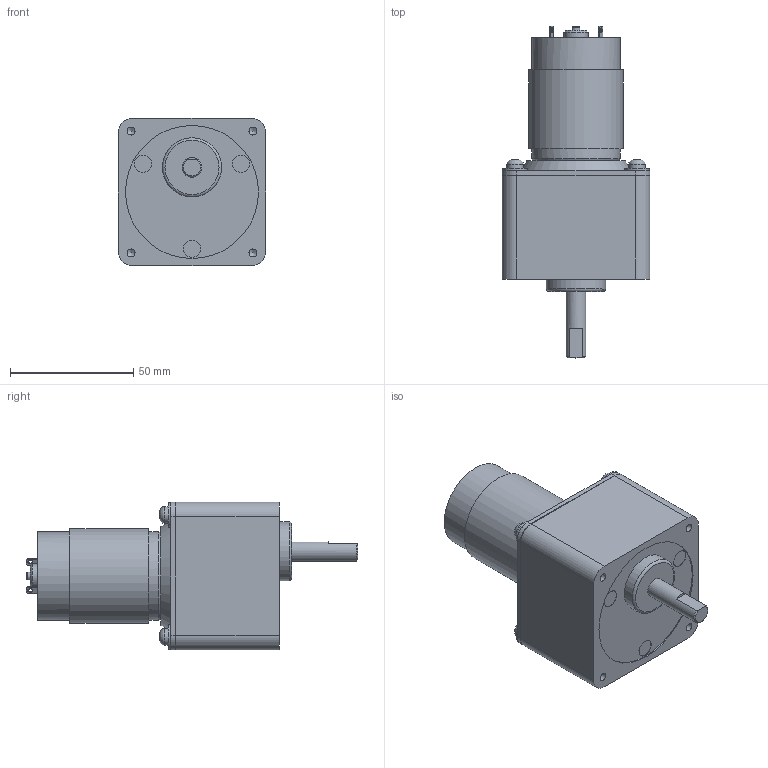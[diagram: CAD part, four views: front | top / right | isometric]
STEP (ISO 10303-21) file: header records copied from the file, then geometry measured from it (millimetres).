
FILE_DESCRIPTION(/* description */ (''),/* implementation_level */ '2;1');
FILE_NAME(/* name */ 'TP-3850#-CM-4.stp',/* time_stamp */ '2023-11-01T13:37:55+09:00',/* author */ ('user'),/* organization */ (''),/* preprocessor_version */ 'ST-DEVELOPER v19.2',/* originating_system */ 'Autodesk Inventor 2024',/* authorisation */ '');
FILE_SCHEMA (('AUTOMOTIVE_DESIGN { 1 0 10303 214 3 1 1 }'));
Length unit declared in the file: millimetre
Products named in the file (3): TP-3850#-CM-50~180-J00-24; cm_4; TP-3850K(RS-645)
Assembly tree (2 placements, depth 2):
  TP-3850#-CM-50~180-J00-24
    cm_4
    TP-3850K(RS-645)
Bounding box: 60 x 134.8 x 60 mm (x, y, z)
Volume: 221215.5 mm3; surface area: 28377.2 mm2
Topology: 2 solids, 2 shells, 158 faces, 349 edges, 230 vertices
Faces by surface type: plane 79, cylinder 55, cone 10, torus 10, bspline 4
Full cylindrical faces by diameter (mm): 1.5 x1, 2.459 x2, 2.5 x5, 3.17 x2, 3.242 x4, 6.8 x4, 7 x3, 7.4 x1, 8 x1, 9.8 x5, 11 x1, 13 x1, 24 x1, 34.8 x1, 35.8 x1, 54 x1
Entity records: 4661 total; most frequent: CARTESIAN_POINT 844, DIRECTION 820, ORIENTED_EDGE 686, EDGE_CURVE 343, AXIS2_PLACEMENT_3D 320, VERTEX_POINT 230, EDGE_LOOP 203, LINE 180
